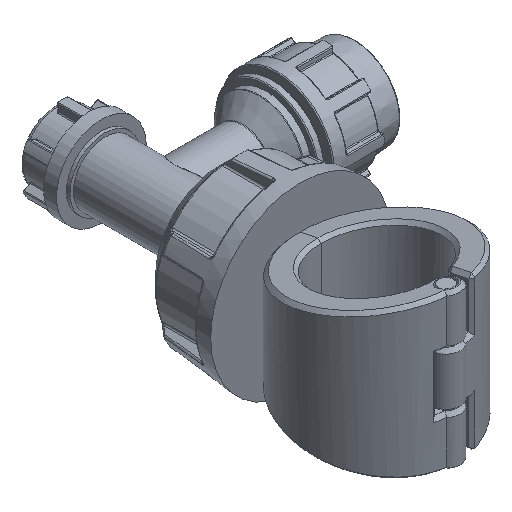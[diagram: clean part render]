
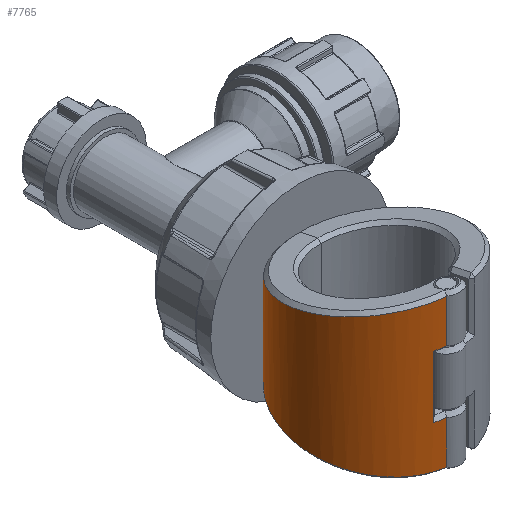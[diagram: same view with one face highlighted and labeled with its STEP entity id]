
A CAD part, isometric view. The second image highlights one B-rep face of the part: STEP entity #7765.
In plain terms, the highlighted cylindrical face has radius 45.5 mm (diameter 91 mm), a partial arc.
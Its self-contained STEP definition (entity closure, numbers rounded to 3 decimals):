
#263=CYLINDRICAL_SURFACE('',#8320,45.5);
#584=FACE_OUTER_BOUND('',#1104,.T.);
#1104=EDGE_LOOP('',(#5280,#5281,#5282,#5283,#5284,#5285,#5286,#5287,#5288,
#5289,#5290,#5291));
#1644=B_SPLINE_CURVE_WITH_KNOTS('',3,(#11843,#11844,#11845,#11846),
 .UNSPECIFIED.,.F.,.F.,(4,4),(-0.004,0.),.UNSPECIFIED.);
#1645=B_SPLINE_CURVE_WITH_KNOTS('',3,(#11848,#11849,#11850,#11851),
 .UNSPECIFIED.,.F.,.F.,(4,4),(-3.022,-3.021),
 .UNSPECIFIED.);
#1646=B_SPLINE_CURVE_WITH_KNOTS('',3,(#11853,#11854,#11855,#11856,#11857,
#11858,#11859,#11860,#11861,#11862),.UNSPECIFIED.,.F.,.F.,(4,1,1,1,1,1,
1,4),(0.315,0.537,0.954,1.371,
1.788,2.205,2.622,3.021),
 .UNSPECIFIED.);
#1647=B_SPLINE_CURVE_WITH_KNOTS('',3,(#11866,#11867,#11868,#11869,#11870,
#11871,#11872,#11873,#11874,#11875),.UNSPECIFIED.,.F.,.F.,(4,1,1,1,1,1,
1,4),(-3.021,-2.622,-2.205,-1.788,
-1.371,-0.954,-0.537,-0.315),
 .UNSPECIFIED.);
#1648=B_SPLINE_CURVE_WITH_KNOTS('',3,(#11877,#11878,#11879,#11880),
 .UNSPECIFIED.,.F.,.F.,(4,4),(3.021,3.022),
 .UNSPECIFIED.);
#1649=B_SPLINE_CURVE_WITH_KNOTS('',3,(#11882,#11883,#11884,#11885),
 .UNSPECIFIED.,.F.,.F.,(4,4),(-1.087,-1.085),
 .UNSPECIFIED.);
#1921=LINE('',#11777,#2291);
#1927=LINE('',#11841,#2297);
#1928=LINE('',#11864,#2298);
#1929=LINE('',#11886,#2299);
#2291=VECTOR('',#9336,10.);
#2297=VECTOR('',#9382,10.);
#2298=VECTOR('',#9383,10.);
#2299=VECTOR('',#9384,10.);
#2666=CIRCLE('',#8310,45.5);
#2669=CIRCLE('',#8315,45.5);
#3229=VERTEX_POINT('',#11771);
#3230=VERTEX_POINT('',#11776);
#3236=VERTEX_POINT('',#11797);
#3239=VERTEX_POINT('',#11818);
#3243=VERTEX_POINT('',#11840);
#3244=VERTEX_POINT('',#11842);
#3245=VERTEX_POINT('',#11847);
#3246=VERTEX_POINT('',#11852);
#3247=VERTEX_POINT('',#11863);
#3248=VERTEX_POINT('',#11865);
#3249=VERTEX_POINT('',#11876);
#3250=VERTEX_POINT('',#11881);
#3984=EDGE_CURVE('',#3229,#3230,#1921,.T.);
#3997=EDGE_CURVE('',#3236,#3229,#2666,.T.);
#4002=EDGE_CURVE('',#3230,#3239,#2669,.T.);
#4008=EDGE_CURVE('',#3243,#3236,#1927,.T.);
#4009=EDGE_CURVE('',#3244,#3243,#1644,.T.);
#4010=EDGE_CURVE('',#3244,#3245,#1645,.T.);
#4011=EDGE_CURVE('',#3246,#3245,#1646,.T.);
#4012=EDGE_CURVE('',#3247,#3246,#1928,.T.);
#4013=EDGE_CURVE('',#3248,#3247,#1647,.T.);
#4014=EDGE_CURVE('',#3248,#3249,#1648,.T.);
#4015=EDGE_CURVE('',#3250,#3249,#1649,.T.);
#4016=EDGE_CURVE('',#3239,#3250,#1929,.T.);
#5280=ORIENTED_EDGE('',*,*,#4002,.F.);
#5281=ORIENTED_EDGE('',*,*,#3984,.F.);
#5282=ORIENTED_EDGE('',*,*,#3997,.F.);
#5283=ORIENTED_EDGE('',*,*,#4008,.F.);
#5284=ORIENTED_EDGE('',*,*,#4009,.F.);
#5285=ORIENTED_EDGE('',*,*,#4010,.T.);
#5286=ORIENTED_EDGE('',*,*,#4011,.F.);
#5287=ORIENTED_EDGE('',*,*,#4012,.F.);
#5288=ORIENTED_EDGE('',*,*,#4013,.F.);
#5289=ORIENTED_EDGE('',*,*,#4014,.T.);
#5290=ORIENTED_EDGE('',*,*,#4015,.F.);
#5291=ORIENTED_EDGE('',*,*,#4016,.F.);
#7765=ADVANCED_FACE('',(#584),#263,.T.);
#8310=AXIS2_PLACEMENT_3D('',#11813,#9358,#9359);
#8315=AXIS2_PLACEMENT_3D('',#11827,#9368,#9369);
#8320=AXIS2_PLACEMENT_3D('',#11839,#9380,#9381);
#9336=DIRECTION('',(0.,0.,-1.));
#9358=DIRECTION('center_axis',(0.,0.,-1.));
#9359=DIRECTION('ref_axis',(0.312,-0.95,0.));
#9368=DIRECTION('center_axis',(0.,0.,1.));
#9369=DIRECTION('ref_axis',(0.312,-0.95,0.));
#9380=DIRECTION('center_axis',(0.,0.,1.));
#9381=DIRECTION('ref_axis',(-0.312,0.95,0.));
#9382=DIRECTION('',(0.,0.,-1.));
#9383=DIRECTION('',(0.,0.,1.));
#9384=DIRECTION('',(0.,0.,-1.));
#11771=CARTESIAN_POINT('',(-11.743,-43.958,17.575));
#11776=CARTESIAN_POINT('',(-11.743,-43.958,-17.575));
#11777=CARTESIAN_POINT('',(-11.743,-43.958,0.));
#11797=CARTESIAN_POINT('',(-5.414,-45.177,17.575));
#11813=CARTESIAN_POINT('Origin',(0.,0.,17.575));
#11818=CARTESIAN_POINT('',(-5.414,-45.177,-17.575));
#11827=CARTESIAN_POINT('Origin',(0.,0.,-17.575));
#11839=CARTESIAN_POINT('Origin',(0.,0.,0.));
#11840=CARTESIAN_POINT('',(-5.414,-45.177,42.06));
#11841=CARTESIAN_POINT('',(-5.414,-45.177,0.));
#11842=CARTESIAN_POINT('',(-5.384,-45.18,42.079));
#11843=CARTESIAN_POINT('Ctrl Pts',(-5.384,-45.18,
42.079));
#11844=CARTESIAN_POINT('Ctrl Pts',(-5.394,-45.179,
42.072));
#11845=CARTESIAN_POINT('Ctrl Pts',(-5.404,-45.178,
42.066));
#11846=CARTESIAN_POINT('Ctrl Pts',(-5.414,-45.176,
42.06));
#11847=CARTESIAN_POINT('',(-5.414,-45.177,42.078));
#11848=CARTESIAN_POINT('Ctrl Pts',(-5.384,-45.18,42.079));
#11849=CARTESIAN_POINT('Ctrl Pts',(-5.394,-45.179,
42.079));
#11850=CARTESIAN_POINT('Ctrl Pts',(-5.404,-45.178,42.078));
#11851=CARTESIAN_POINT('Ctrl Pts',(-5.414,-45.177,
42.078));
#11852=CARTESIAN_POINT('',(-14.207,43.225,24.696));
#11853=CARTESIAN_POINT('Ctrl Pts',(-14.206,43.221,24.697));
#11854=CARTESIAN_POINT('Ctrl Pts',(-17.432,42.161,24.904));
#11855=CARTESIAN_POINT('Ctrl Pts',(-26.373,38.079,25.7));
#11856=CARTESIAN_POINT('Ctrl Pts',(-38.414,26.831,27.896));
#11857=CARTESIAN_POINT('Ctrl Pts',(-45.986,8.909,31.407));
#11858=CARTESIAN_POINT('Ctrl Pts',(-45.651,-10.476,
35.218));
#11859=CARTESIAN_POINT('Ctrl Pts',(-37.528,-28.006,38.678));
#11860=CARTESIAN_POINT('Ctrl Pts',(-23.277,-40.558,41.162));
#11861=CARTESIAN_POINT('Ctrl Pts',(-11.379,-44.461,
41.936));
#11862=CARTESIAN_POINT('Ctrl Pts',(-5.414,-45.177,
42.078));
#11863=CARTESIAN_POINT('',(-14.207,43.225,-24.696));
#11864=CARTESIAN_POINT('',(-14.207,43.225,0.));
#11865=CARTESIAN_POINT('',(-5.414,-45.177,-42.078));
#11866=CARTESIAN_POINT('Ctrl Pts',(-5.414,-45.177,
-42.078));
#11867=CARTESIAN_POINT('Ctrl Pts',(-11.379,-44.461,
-41.936));
#11868=CARTESIAN_POINT('Ctrl Pts',(-23.277,-40.558,
-41.162));
#11869=CARTESIAN_POINT('Ctrl Pts',(-37.531,-28.007,
-38.678));
#11870=CARTESIAN_POINT('Ctrl Pts',(-45.646,-10.474,
-35.218));
#11871=CARTESIAN_POINT('Ctrl Pts',(-45.992,8.909,-31.407));
#11872=CARTESIAN_POINT('Ctrl Pts',(-38.411,26.83,-27.897));
#11873=CARTESIAN_POINT('Ctrl Pts',(-26.373,38.079,-25.7));
#11874=CARTESIAN_POINT('Ctrl Pts',(-17.432,42.161,-24.904));
#11875=CARTESIAN_POINT('Ctrl Pts',(-14.206,43.221,-24.697));
#11876=CARTESIAN_POINT('',(-5.384,-45.18,-42.079));
#11877=CARTESIAN_POINT('Ctrl Pts',(-5.414,-45.177,
-42.078));
#11878=CARTESIAN_POINT('Ctrl Pts',(-5.404,-45.178,-42.078));
#11879=CARTESIAN_POINT('Ctrl Pts',(-5.394,-45.179,
-42.079));
#11880=CARTESIAN_POINT('Ctrl Pts',(-5.384,-45.18,
-42.079));
#11881=CARTESIAN_POINT('',(-5.414,-45.177,-42.06));
#11882=CARTESIAN_POINT('Ctrl Pts',(-5.414,-45.176,
-42.06));
#11883=CARTESIAN_POINT('Ctrl Pts',(-5.404,-45.178,
-42.066));
#11884=CARTESIAN_POINT('Ctrl Pts',(-5.394,-45.179,
-42.072));
#11885=CARTESIAN_POINT('Ctrl Pts',(-5.384,-45.18,
-42.079));
#11886=CARTESIAN_POINT('',(-5.414,-45.177,0.));
